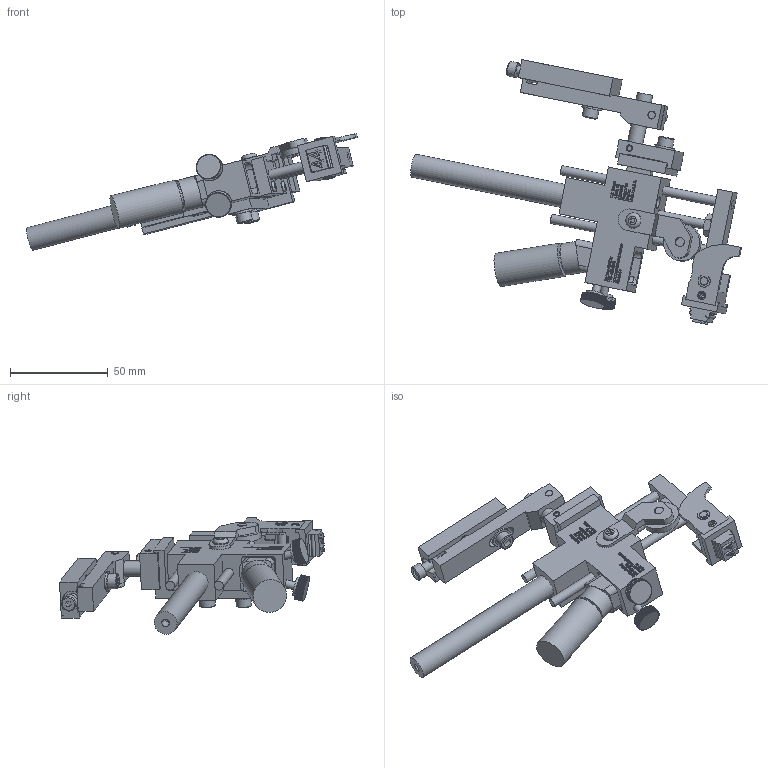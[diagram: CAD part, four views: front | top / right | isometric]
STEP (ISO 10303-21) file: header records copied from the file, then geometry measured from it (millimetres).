
FILE_DESCRIPTION((''),'2;1');
FILE_NAME('C:\Documents and Settings\Ron\My Documents\Inventor\Sprinter Drawing\Machines in Inventor\Model 44\Type\Std\Brkt\90\Model 44 Standard type 90 DEG w brkt.stp','2009-01-14T10:55:43',('Ron'),(''),'Autodesk Inventor 2008','Autodesk Inventor 2008','');
FILE_SCHEMA(('AUTOMOTIVE_DESIGN { 1 0 10303 214 1 1 1 1 }'));
Length unit declared in the file: inch
Products named in the file (1): Model 44 Standard type 90 DEG w brkt
Bounding box: 169.46 x 135.7 x 59.67 mm (x, y, z)
Volume: 104550.3 mm3; surface area: 50683.5 mm2
Topology: 33 solids, 33 shells, 6241 faces, 15499 edges, 9587 vertices
Faces by surface type: plane 4392, bspline 1322, cylinder 476, cone 47, torus 4
Full cylindrical faces by diameter (mm): 3.175 x4, 3.302 x1, 3.505 x1, 3.962 x1, 4.064 x6, 4.166 x1, 4.699 x1, 4.75 x4, 4.775 x1, 4.826 x7, 5.156 x5, 5.207 x2, 5.41 x2, 6.096 x1, 6.68 x1, 7.239 x1, 7.62 x1, 7.925 x7, 7.938 x1, 8.128 x1, 9.017 x1, 9.525 x2, 10.312 x4, 10.922 x1, 11.036 x1, 11.938 x2, 14.478 x1, 16.256 x1, 17.272 x1, 19.05 x1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
Entity records: 199091 total; most frequent: CARTESIAN_POINT 54656, ORIENTED_EDGE 30560, DIRECTION 23734, EDGE_CURVE 15280, VECTOR 11512, LINE 11512, VERTEX_POINT 9519, EDGE_LOOP 6789
